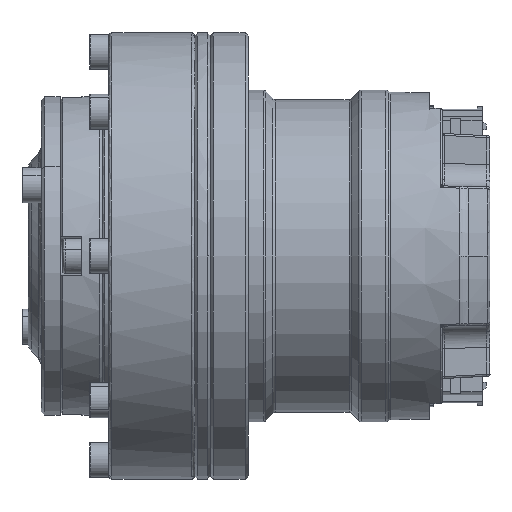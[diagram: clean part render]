
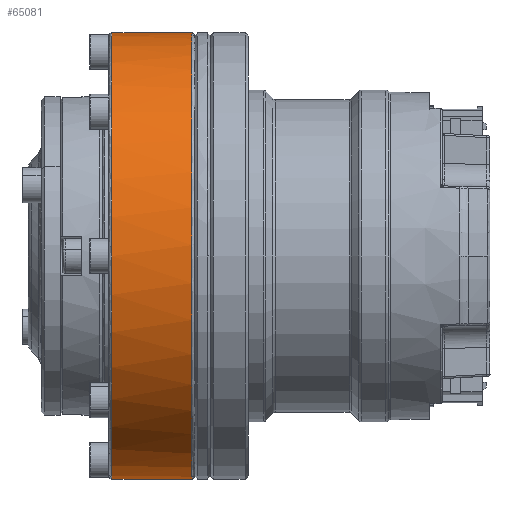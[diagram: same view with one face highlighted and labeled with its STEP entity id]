
A CAD part, left-side view. The second image highlights one B-rep face of the part: STEP entity #65081.
In plain terms, the highlighted cylindrical face has radius 35 mm (diameter 70 mm), a partial arc.
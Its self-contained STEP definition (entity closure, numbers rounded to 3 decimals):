
#603 = VECTOR ( 'NONE', #63382, 1000. ) ;
#3832 = EDGE_CURVE ( 'NONE', #27131, #70662, #84450, .T. ) ;
#6689 = EDGE_CURVE ( 'NONE', #64862, #27131, #32318, .T. ) ;
#9023 = CARTESIAN_POINT ( 'NONE',  ( -70., -0.1, -35. ) ) ;
#10600 = EDGE_CURVE ( 'NONE', #64862, #106486, #44270, .T. ) ;
#12076 = AXIS2_PLACEMENT_3D ( 'NONE', #93620, #46421, #114404 ) ;
#12461 = CARTESIAN_POINT ( 'NONE',  ( 0., -0.1, -35. ) ) ;
#14584 =( BOUNDED_CURVE ( )  B_SPLINE_CURVE ( 3, ( #57669, #9023, #77157, #37144 ),
 .UNSPECIFIED., .F., .F. ) 
 B_SPLINE_CURVE_WITH_KNOTS ( ( 4, 4 ),
 ( 0., 208.939 ),
 .UNSPECIFIED. ) 
 CURVE ( )  GEOMETRIC_REPRESENTATION_ITEM ( )  RATIONAL_B_SPLINE_CURVE ( ( 1., 0.333, 0.333, 1. ) ) 
 REPRESENTATION_ITEM ( '' )  );
#15273 = VECTOR ( 'NONE', #67272, 1000. ) ;
#22867 = CARTESIAN_POINT ( 'NONE',  ( 0., -0.6, -35. ) ) ;
#27131 = VERTEX_POINT ( 'NONE', #33879 ) ;
#32318 = CIRCLE ( 'NONE', #105690, 35. ) ;
#33879 = CARTESIAN_POINT ( 'NONE',  ( 0., 12.4, -35. ) ) ;
#37144 = CARTESIAN_POINT ( 'NONE',  ( 0., -0.1, 35. ) ) ;
#39562 = CYLINDRICAL_SURFACE ( 'NONE', #12076, 35. ) ;
#44224 = EDGE_CURVE ( 'NONE', #70662, #106486, #14584, .T. ) ;
#44270 = LINE ( 'NONE', #88437, #15273 ) ;
#46421 = DIRECTION ( 'NONE',  ( 0., -1., 0. ) ) ;
#57669 = CARTESIAN_POINT ( 'NONE',  ( 0., -0.1, -35. ) ) ;
#62386 = EDGE_LOOP ( 'NONE', ( #94356, #87332, #111193, #95914 ) ) ;
#63382 = DIRECTION ( 'NONE',  ( 0., -1., 0. ) ) ;
#64862 = VERTEX_POINT ( 'NONE', #77634 ) ;
#65081 = ADVANCED_FACE ( 'NONE', ( #83758 ), #39562, .T. ) ;
#67272 = DIRECTION ( 'NONE',  ( 0., -1., 0. ) ) ;
#70662 = VERTEX_POINT ( 'NONE', #12461 ) ;
#77157 = CARTESIAN_POINT ( 'NONE',  ( -70., -0.1, 35. ) ) ;
#77634 = CARTESIAN_POINT ( 'NONE',  ( 0., 12.4, 35. ) ) ;
#82424 = CARTESIAN_POINT ( 'NONE',  ( 0., 12.4, 0. ) ) ;
#83758 = FACE_OUTER_BOUND ( 'NONE', #62386, .T. ) ;
#84450 = LINE ( 'NONE', #22867, #603 ) ;
#87332 = ORIENTED_EDGE ( 'NONE', *, *, #3832, .T. ) ;
#88437 = CARTESIAN_POINT ( 'NONE',  ( 0., -0.6, 35. ) ) ;
#93620 = CARTESIAN_POINT ( 'NONE',  ( 0., -0.6, 0. ) ) ;
#94356 = ORIENTED_EDGE ( 'NONE', *, *, #6689, .T. ) ;
#95914 = ORIENTED_EDGE ( 'NONE', *, *, #10600, .F. ) ;
#101117 = DIRECTION ( 'NONE',  ( 0., -1., 0. ) ) ;
#101531 = DIRECTION ( 'NONE',  ( -1., 0., 0. ) ) ;
#105690 = AXIS2_PLACEMENT_3D ( 'NONE', #82424, #101117, #101531 ) ;
#106486 = VERTEX_POINT ( 'NONE', #109521 ) ;
#109521 = CARTESIAN_POINT ( 'NONE',  ( 0., -0.1, 35. ) ) ;
#111193 = ORIENTED_EDGE ( 'NONE', *, *, #44224, .T. ) ;
#114404 = DIRECTION ( 'NONE',  ( 0., 0., 1. ) ) ;
